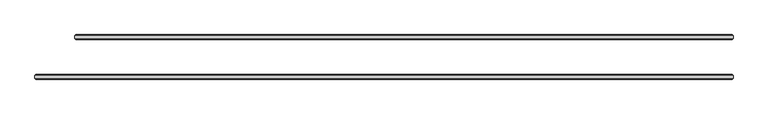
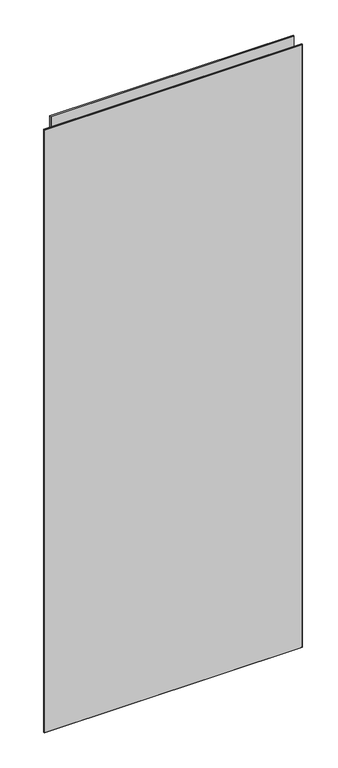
"""IFC4 building model written with IfcOpenShell, lengths in millimetres: plate geometry, 3-AMG-2-Панель двойной витраж 8, 10 : Смещение 32 Толщина 8mm."""

import ifcopenshell
import ifcopenshell.guid

model = None  # the IFC model being written
_history = None  # IfcOwnerHistory: only IFC2X3 demands one
_inside = {}  # id of a spatial element -> (the spatial element, [elements in it])
_under = {}  # id of a project, library or spatial element -> (it, [spatial elements below it])
_declared = {}  # id of a project -> (the project, [libraries it declares])
_typed = {}  # id of a type object -> (the type object, [elements of that type])
_made_of = {}  # id of a material, layer set ... -> (it, [elements and type objects made of it])


def new_model(schema):
    """Start an empty IFC model of exactly this schema.

    Asked for "IFC4X3", IfcOpenShell would pick the latest addendum, in which some entities
    have other attributes; the version numbers below select the first issue.
    IFC2X3 requires an IfcOwnerHistory on every rooted entity: one is made here for all.
    """
    global model, _history
    if schema == "IFC4X3":
        model = ifcopenshell.file(schema_version=(4, 3, 0, 0))
    else:
        model = ifcopenshell.file(schema=schema)
    _inside.clear()
    _under.clear()
    _declared.clear()
    _typed.clear()
    _made_of.clear()
    _history = None
    if model.schema == "IFC2X3":
        org = make("IfcOrganization", Name="unknown")
        user = make(
            "IfcPersonAndOrganization",
            ThePerson=make("IfcPerson", FamilyName="unknown"),
            TheOrganization=org,
        )
        app = make(
            "IfcApplication",
            ApplicationDeveloper=org,
            Version="unknown",
            ApplicationFullName="unknown",
            ApplicationIdentifier="unknown",
        )
        _history = make(
            "IfcOwnerHistory",
            OwningUser=user,
            OwningApplication=app,
            ChangeAction="ADDED",
            CreationDate=0,
        )
    return model


def make(cls, **values):
    """One entity of the class cls with the attributes given. An attribute that is None is left unset."""
    return model.create_entity(
        cls, **{name: value for name, value in values.items() if value is not None}
    )


def rooted(cls, **values):
    """An entity with a GlobalId (a new one), such as an element, a storey or a relation."""
    return make(cls, GlobalId=ifcopenshell.guid.new(), OwnerHistory=_history, **values)


def si_unit(unit_type, name, prefix=None):
    """IfcSIUnit, for example si_unit("LENGTHUNIT", "METRE", prefix="MILLI")."""
    return make("IfcSIUnit", UnitType=unit_type, Prefix=prefix, Name=name)


def assignment(units):
    """IfcUnitAssignment: the units of a project."""
    return None if units is None else make("IfcUnitAssignment", Units=units)


def point(xyz):
    """IfcCartesianPoint."""
    return None if xyz is None else make("IfcCartesianPoint", Coordinates=xyz)


def direction(xyz):
    """IfcDirection."""
    return None if xyz is None else make("IfcDirection", DirectionRatios=xyz)


def frame(location, z_axis=None, x_axis=None):
    """IfcAxis2Placement3D, a coordinate frame: its origin and axes. An axis left out is left unset."""
    return make(
        "IfcAxis2Placement3D",
        Location=point(location),
        Axis=direction(z_axis),
        RefDirection=direction(x_axis),
    )


def origin():
    """The frame at (0, 0, 0) with its axes left unset."""
    return frame((0.0, 0.0, 0.0))


def place(relative_to, where):
    """IfcLocalPlacement: puts the frame where relative to a parent placement (None: the world)."""
    return make(
        "IfcLocalPlacement", PlacementRelTo=relative_to, RelativePlacement=where
    )


def context(
    kind, dimensions, precision=None, world=None, true_north=None, identifier=None
):
    """IfcGeometricRepresentationContext, for example the 3D "Model" context."""
    return make(
        "IfcGeometricRepresentationContext",
        ContextIdentifier=identifier,
        ContextType=kind,
        CoordinateSpaceDimension=dimensions,
        Precision=precision,
        WorldCoordinateSystem=world,
        TrueNorth=true_north,
    )


def project(units=None, contexts=None):
    """IfcProject with its units and contexts."""
    return rooted(
        "IfcProject",
        Name="project",
        RepresentationContexts=contexts,
        UnitsInContext=assignment(units),
    )


def spatial(cls, under=None, at=None, **own):
    """A site, building, storey or space (cls), placed at a placement, below another one or the project."""
    s = rooted(cls, ObjectPlacement=at, **own)
    if under is not None:
        _under.setdefault(under.id(), (under, []))[1].append(s)
    return s


def faces_of(points, faces, orient=None, outer=None):
    """IfcFace entities. A face is a list of loops; a loop is a list of indices into points, from 0.

    orient and outer hold one flag for each loop. By default every Orientation is true, the
    first loop of a face is its IfcFaceOuterBound and the others are IfcFaceBound.
    """
    made = []
    for i, loops in enumerate(faces):
        bounds = []
        for j, loop in enumerate(loops):
            is_outer = j == 0 if outer is None else outer[i][j]
            bounds.append(
                make(
                    "IfcFaceOuterBound" if is_outer else "IfcFaceBound",
                    Bound=make("IfcPolyLoop", Polygon=[points[k] for k in loop]),
                    Orientation=True if orient is None else orient[i][j],
                )
            )
        made.append(make("IfcFace", Bounds=bounds))
    return made


def faceted_brep(points, faces, orient=None, outer=None, voids=None):
    """IfcFacetedBrep: a solid bounded by flat faces; with voids (closed shells), ...WithVoids."""
    shared = [point(p) for p in points]
    hull = make("IfcClosedShell", CfsFaces=faces_of(shared, faces, orient, outer))
    if voids is None:
        return make("IfcFacetedBrep", Outer=hull)
    return make(
        "IfcFacetedBrepWithVoids",
        Outer=hull,
        Voids=[
            make(cls, CfsFaces=faces_of(shared, fs, o, b)) for cls, fs, o, b in voids
        ],
    )


def shape(context_of_items, identifier, shape_type, items):
    """IfcShapeRepresentation: the items that make up one representation, for example the "Body"."""
    return make(
        "IfcShapeRepresentation",
        ContextOfItems=context_of_items,
        RepresentationIdentifier=identifier,
        RepresentationType=shape_type,
        Items=items,
    )


def source(mapping_origin, context_of_items, identifier, shape_type, items):
    """IfcRepresentationMap: a shape defined once, which mapped items show again and again."""
    return make(
        "IfcRepresentationMap",
        MappingOrigin=mapping_origin,
        MappedRepresentation=shape(context_of_items, identifier, shape_type, items),
    )


def transform(
    local_origin,
    x_axis=None,
    y_axis=None,
    z_axis=None,
    scale=None,
    scale2=None,
    scale3=None,
    uniform=True,
):
    """IfcCartesianTransformationOperator3D, or its non-uniform kind. x_axis, y_axis, z_axis: its Axis1, 2, 3."""
    if uniform:
        return make(
            "IfcCartesianTransformationOperator3D",
            Axis1=direction(x_axis),
            Axis2=direction(y_axis),
            LocalOrigin=point(local_origin),
            Scale=scale,
            Axis3=direction(z_axis),
        )
    return make(
        "IfcCartesianTransformationOperator3DnonUniform",
        Axis1=direction(x_axis),
        Axis2=direction(y_axis),
        LocalOrigin=point(local_origin),
        Scale=scale,
        Axis3=direction(z_axis),
        Scale2=scale2,
        Scale3=scale3,
    )


def mapped(mapping_source, mapping_target):
    """IfcMappedItem: shows the shape of a source again, moved by a transform."""
    return make(
        "IfcMappedItem", MappingSource=mapping_source, MappingTarget=mapping_target
    )


def made_of(thing, what):
    """Note that an element or type object is made of a material, layer set ...; save() writes the relation."""
    if what is not None:
        _made_of.setdefault(what.id(), (what, []))[1].append(thing)
    return thing


def element(
    cls,
    number,
    at=None,
    inside=None,
    cuts=None,
    type_object=None,
    material=None,
    context=None,
    identifier="Body",
    shape_type=None,
    held_by="IfcProductDefinitionShape",
    body=None,
    shapes=None,
    **own,
):
    """One element of the class cls, such as IfcWall. Its Tag is "e" and its number.

    at: its placement. inside: the storey or other place that contains it. cuts: it is an
    opening in that element (IfcRelVoidsElement). A single representation is given by context,
    identifier, shape_type and body (its items); several are given by shapes. held_by: the class
    of the entity that holds the representations. save() writes the other relations.
    """
    e = rooted(cls, Tag="e%d" % number, ObjectPlacement=at, **own)
    if body is not None:
        shapes = [shape(context, identifier, shape_type, body)]
    if shapes is not None:
        e.Representation = make(held_by, Representations=shapes)
    if inside is not None:
        _inside.setdefault(inside.id(), (inside, []))[1].append(e)
    if cuts is not None:
        rooted(
            "IfcRelVoidsElement", RelatingBuildingElement=cuts, RelatedOpeningElement=e
        )
    if type_object is not None:
        _typed.setdefault(type_object.id(), (type_object, []))[1].append(e)
    return made_of(e, material)


def aggregate(whole, parts):
    """IfcRelAggregates: a whole, such as a stair, and the parts it consists of."""
    return rooted("IfcRelAggregates", RelatingObject=whole, RelatedObjects=parts)


def save(model, path):
    """Write the relations noted so far, then the file.

    IfcRelAggregates (storeys below a building ...), IfcRelContainedInSpatialStructure (elements
    in a storey), IfcRelDefinesByType, IfcRelAssociatesMaterial and IfcRelDeclares: one each for
    every whole, place, type object, material and project.
    """
    for whole, parts in _under.values():
        aggregate(whole, parts)
    for where, things in _inside.values():
        rooted(
            "IfcRelContainedInSpatialStructure",
            RelatedElements=things,
            RelatingStructure=where,
        )
    for kind, things in _typed.values():
        rooted("IfcRelDefinesByType", RelatedObjects=things, RelatingType=kind)
    for what, things in _made_of.values():
        rooted("IfcRelAssociatesMaterial", RelatedObjects=things, RelatingMaterial=what)
    for by, libraries in _declared.values():
        rooted("IfcRelDeclares", RelatingContext=by, RelatedDefinitions=libraries)
    model.write(path)


def plate_45043722(model_context):
    return source(origin(), model_context, "Body", "Brep", [
        faceted_brep([(546.5, -34.4961653, 2751.0), (546.5, -29.5038347, 2751.0), (-572.5, -29.5038347, 2751.0), (-572.5, -34.4961653, 2751.0), (546.5, -29.5038347, -7.0), (546.5, -34.4961653, -7.0), (-572.5, -34.4961653, -7.0), (-572.5, -29.5038347, -7.0), (-570.9961653, -28.0, 2749.4961653), (544.9961653, -28.0, 2749.4961653), (544.9961653, -28.0, -5.5039422), (-570.9961653, -28.0, -5.5039422), (544.9961653, -36.0, 2749.4961653), (-570.9961653, -36.0, 2749.4961653), (-570.9961653, -36.0, -5.4961653), (544.9961653, -36.0, -5.4961653)], [[[0, 1, 2, 3]], [[4, 5, 6, 7]], [[8, 9, 10, 11]], [[3, 2, 7, 6]], [[12, 13, 14, 15]], [[1, 0, 5, 4]], [[1, 4, 10, 9]], [[5, 0, 12, 15]], [[0, 3, 13, 12]], [[2, 1, 9, 8]], [[7, 2, 8, 11]], [[3, 6, 14, 13]], [[6, 5, 15, 14]], [[4, 7, 11, 10]]]),
        faceted_brep([(546.5, 29.5038347, 2751.0), (546.5, 34.4961653, 2751.0), (-508.5, 34.4961653, 2751.0), (-508.5, 29.5038347, 2751.0), (546.5, 34.4961653, -7.0), (546.5, 29.5038347, -7.0), (-508.5, 29.5038347, -7.0), (-508.5, 34.4961653, -7.0), (-506.9961653, 36.0, 2749.4961653), (544.9961653, 36.0, 2749.4961653), (544.9961653, 36.0, -5.5039422), (-506.9961653, 36.0, -5.5039422), (544.9961653, 28.0, 2749.4961653), (-506.9961653, 28.0, 2749.4961653), (-506.9961653, 28.0, -5.4961653), (544.9961653, 28.0, -5.4961653)], [[[0, 1, 2, 3]], [[4, 5, 6, 7]], [[8, 9, 10, 11]], [[3, 2, 7, 6]], [[12, 13, 14, 15]], [[1, 0, 5, 4]], [[1, 4, 10, 9]], [[5, 0, 12, 15]], [[7, 2, 8, 11]], [[3, 6, 14, 13]], [[0, 3, 13, 12]], [[2, 1, 9, 8]], [[6, 5, 15, 14]], [[4, 7, 11, 10]]]),
    ])


if __name__ == "__main__":
    model = new_model("IFC4")
    model_context = context("Model", 3, world=origin())
    ifc_project = project(units=[si_unit("LENGTHUNIT", "METRE", prefix="MILLI")], contexts=[model_context])
    site = spatial("IfcSite", under=ifc_project)
    building = spatial("IfcBuilding", under=site)
    placement = place(None, origin())
    plate_shape = plate_45043722(model_context)
    element("IfcPlate", 1, ObjectType="3-AMG-2-Панель двойной витраж 8, 10 : Смещение 32 Толщина 8mm", at=placement, inside=building, context=model_context, shape_type="MappedRepresentation", body=[
        mapped(plate_shape, transform((0.0, 0.0, 0.0), x_axis=(1.0, 0.0, 0.0), y_axis=(0.0, 1.0, 0.0), z_axis=(0.0, 0.0, 1.0))),
    ])
    save(model, "model.ifc")
